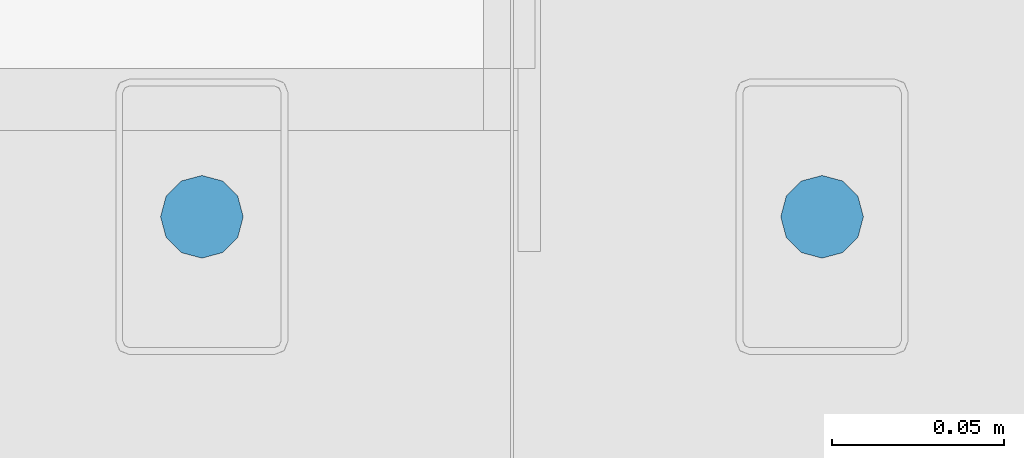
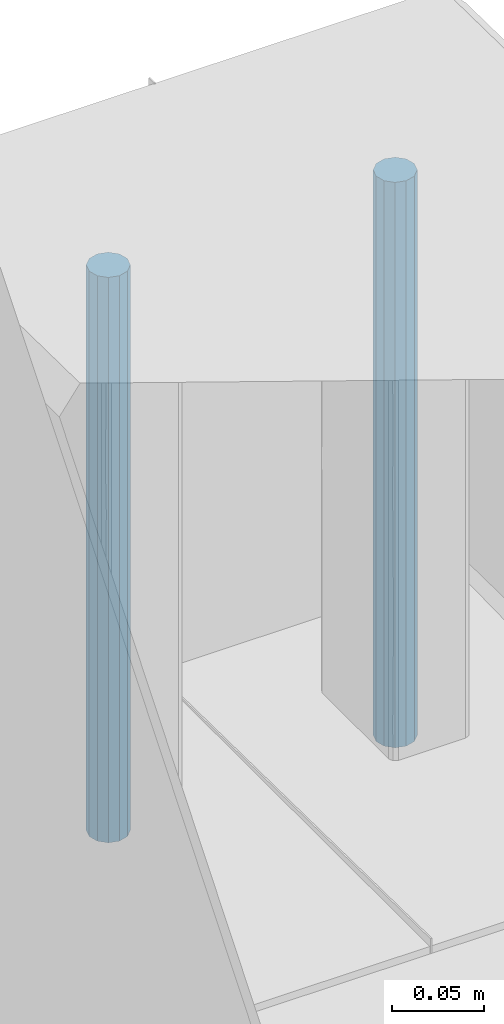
# One storey, part 138 of 186: 2 beams.
"""IFC4X3_ADD2 building model written with IfcOpenShell, lengths in millimetres."""

import ifcopenshell
import ifcopenshell.guid

model = None  # the IFC model being written
_history = None  # IfcOwnerHistory: only IFC2X3 demands one
_inside = {}  # id of a spatial element -> (the spatial element, [elements in it])
_under = {}  # id of a project, library or spatial element -> (it, [spatial elements below it])
_declared = {}  # id of a project -> (the project, [libraries it declares])
_typed = {}  # id of a type object -> (the type object, [elements of that type])
_made_of = {}  # id of a material, layer set ... -> (it, [elements and type objects made of it])


def new_model(schema):
    """Start an empty IFC model of exactly this schema.

    Asked for "IFC4X3", IfcOpenShell would pick the latest addendum, in which some entities
    have other attributes; the version numbers below select the first issue.
    IFC2X3 requires an IfcOwnerHistory on every rooted entity: one is made here for all.
    """
    global model, _history
    if schema == "IFC4X3":
        model = ifcopenshell.file(schema_version=(4, 3, 0, 0))
    else:
        model = ifcopenshell.file(schema=schema)
    _inside.clear()
    _under.clear()
    _declared.clear()
    _typed.clear()
    _made_of.clear()
    _history = None
    if model.schema == "IFC2X3":
        org = make("IfcOrganization", Name="unknown")
        user = make(
            "IfcPersonAndOrganization",
            ThePerson=make("IfcPerson", FamilyName="unknown"),
            TheOrganization=org,
        )
        app = make(
            "IfcApplication",
            ApplicationDeveloper=org,
            Version="unknown",
            ApplicationFullName="unknown",
            ApplicationIdentifier="unknown",
        )
        _history = make(
            "IfcOwnerHistory",
            OwningUser=user,
            OwningApplication=app,
            ChangeAction="ADDED",
            CreationDate=0,
        )
    return model


def make(cls, **values):
    """One entity of the class cls with the attributes given. An attribute that is None is left unset."""
    return model.create_entity(
        cls, **{name: value for name, value in values.items() if value is not None}
    )


def rooted(cls, **values):
    """An entity with a GlobalId (a new one), such as an element, a storey or a relation."""
    return make(cls, GlobalId=ifcopenshell.guid.new(), OwnerHistory=_history, **values)


def si_unit(unit_type, name, prefix=None):
    """IfcSIUnit, for example si_unit("LENGTHUNIT", "METRE", prefix="MILLI")."""
    return make("IfcSIUnit", UnitType=unit_type, Prefix=prefix, Name=name)


def assignment(units):
    """IfcUnitAssignment: the units of a project."""
    return None if units is None else make("IfcUnitAssignment", Units=units)


def point(xyz):
    """IfcCartesianPoint."""
    return None if xyz is None else make("IfcCartesianPoint", Coordinates=xyz)


def direction(xyz):
    """IfcDirection."""
    return None if xyz is None else make("IfcDirection", DirectionRatios=xyz)


def frame(location, z_axis=None, x_axis=None):
    """IfcAxis2Placement3D, a coordinate frame: its origin and axes. An axis left out is left unset."""
    return make(
        "IfcAxis2Placement3D",
        Location=point(location),
        Axis=direction(z_axis),
        RefDirection=direction(x_axis),
    )


def origin_with_axes():
    """The frame at (0, 0, 0) with the z axis (0, 0, 1) and the x axis (1, 0, 0) written out."""
    return frame((0.0, 0.0, 0.0), z_axis=(0.0, 0.0, 1.0), x_axis=(1.0, 0.0, 0.0))


def place(relative_to, where):
    """IfcLocalPlacement: puts the frame where relative to a parent placement (None: the world)."""
    return make(
        "IfcLocalPlacement", PlacementRelTo=relative_to, RelativePlacement=where
    )


def context(
    kind, dimensions, precision=None, world=None, true_north=None, identifier=None
):
    """IfcGeometricRepresentationContext, for example the 3D "Model" context."""
    return make(
        "IfcGeometricRepresentationContext",
        ContextIdentifier=identifier,
        ContextType=kind,
        CoordinateSpaceDimension=dimensions,
        Precision=precision,
        WorldCoordinateSystem=world,
        TrueNorth=true_north,
    )


def subcontext(parent, identifier, kind, view, scale=None):
    """IfcGeometricRepresentationSubContext, for example "Body" below "Model"."""
    return make(
        "IfcGeometricRepresentationSubContext",
        ContextIdentifier=identifier,
        ContextType=kind,
        ParentContext=parent,
        TargetScale=scale,
        TargetView=view,
    )


def project(units=None, contexts=None):
    """IfcProject with its units and contexts."""
    return rooted(
        "IfcProject",
        Name="project",
        RepresentationContexts=contexts,
        UnitsInContext=assignment(units),
    )


def spatial(cls, under=None, at=None, **own):
    """A site, building, storey or space (cls), placed at a placement, below another one or the project."""
    s = rooted(cls, ObjectPlacement=at, **own)
    if under is not None:
        _under.setdefault(under.id(), (under, []))[1].append(s)
    return s


def point_list(points):
    """IfcCartesianPointList2D or 3D."""
    cls = (
        "IfcCartesianPointList2D" if len(points[0]) == 2 else "IfcCartesianPointList3D"
    )
    return make(cls, CoordList=points)


def polygons(points, faces, closed=None, point_numbers=None):
    """IfcPolygonalFaceSet: a face is its outer loop, then its inner loops; points numbered from 1."""
    made = []
    for loops in faces:
        if len(loops) == 1:
            made.append(make("IfcIndexedPolygonalFace", CoordIndex=loops[0]))
        else:
            made.append(
                make(
                    "IfcIndexedPolygonalFaceWithVoids",
                    CoordIndex=loops[0],
                    InnerCoordIndices=loops[1:],
                )
            )
    return make(
        "IfcPolygonalFaceSet",
        Coordinates=point_list(points),
        Closed=closed,
        Faces=made,
        PnIndex=point_numbers,
    )


def shape(context_of_items, identifier, shape_type, items):
    """IfcShapeRepresentation: the items that make up one representation, for example the "Body"."""
    return make(
        "IfcShapeRepresentation",
        ContextOfItems=context_of_items,
        RepresentationIdentifier=identifier,
        RepresentationType=shape_type,
        Items=items,
    )


def made_of(thing, what):
    """Note that an element or type object is made of a material, layer set ...; save() writes the relation."""
    if what is not None:
        _made_of.setdefault(what.id(), (what, []))[1].append(thing)
    return thing


def element(
    cls,
    number,
    at=None,
    inside=None,
    cuts=None,
    type_object=None,
    material=None,
    context=None,
    identifier="Body",
    shape_type=None,
    held_by="IfcProductDefinitionShape",
    body=None,
    shapes=None,
    **own,
):
    """One element of the class cls, such as IfcWall. Its Tag is "e" and its number.

    at: its placement. inside: the storey or other place that contains it. cuts: it is an
    opening in that element (IfcRelVoidsElement). A single representation is given by context,
    identifier, shape_type and body (its items); several are given by shapes. held_by: the class
    of the entity that holds the representations. save() writes the other relations.
    """
    e = rooted(cls, Tag="e%d" % number, ObjectPlacement=at, **own)
    if body is not None:
        shapes = [shape(context, identifier, shape_type, body)]
    if shapes is not None:
        e.Representation = make(held_by, Representations=shapes)
    if inside is not None:
        _inside.setdefault(inside.id(), (inside, []))[1].append(e)
    if cuts is not None:
        rooted(
            "IfcRelVoidsElement", RelatingBuildingElement=cuts, RelatedOpeningElement=e
        )
    if type_object is not None:
        _typed.setdefault(type_object.id(), (type_object, []))[1].append(e)
    return made_of(e, material)


def aggregate(whole, parts):
    """IfcRelAggregates: a whole, such as a stair, and the parts it consists of."""
    return rooted("IfcRelAggregates", RelatingObject=whole, RelatedObjects=parts)


def save(model, path):
    """Write the relations noted so far, then the file.

    IfcRelAggregates (storeys below a building ...), IfcRelContainedInSpatialStructure (elements
    in a storey), IfcRelDefinesByType, IfcRelAssociatesMaterial and IfcRelDeclares: one each for
    every whole, place, type object, material and project.
    """
    for whole, parts in _under.values():
        aggregate(whole, parts)
    for where, things in _inside.values():
        rooted(
            "IfcRelContainedInSpatialStructure",
            RelatedElements=things,
            RelatingStructure=where,
        )
    for kind, things in _typed.values():
        rooted("IfcRelDefinesByType", RelatedObjects=things, RelatingType=kind)
    for what, things in _made_of.values():
        rooted("IfcRelAssociatesMaterial", RelatedObjects=things, RelatingMaterial=what)
    for by, libraries in _declared.values():
        rooted("IfcRelDeclares", RelatingContext=by, RelatedDefinitions=libraries)
    model.write(path)


model = new_model("IFC4X3_ADD2")

# Units and contexts
model_context = context("Model", 3, precision=1e-05, world=origin_with_axes(), true_north=direction((0.0, 1.0)))
body_context = subcontext(model_context, "Body", "Model", "MODEL_VIEW")
ifc_project = project(units=[si_unit("LENGTHUNIT", "METRE", prefix="MILLI"), si_unit("AREAUNIT", "SQUARE_METRE"), si_unit("VOLUMEUNIT", "CUBIC_METRE"), si_unit("PLANEANGLEUNIT", "RADIAN"), si_unit("TIMEUNIT", "SECOND"), si_unit("MASSUNIT", "GRAM")], contexts=[model_context])

# Site, building, storey
site_placement = place(None, origin_with_axes())
site = spatial("IfcSite", under=ifc_project, at=site_placement, Name="Site", CompositionType="ELEMENT")
building_placement = place(site_placement, origin_with_axes())
building = spatial("IfcBuilding", under=site, at=building_placement, Name="IFC Building Story")
storey_placement = place(building_placement, frame((0.0, 0.0, 4370.0), z_axis=(0.0, 0.0, 1.0), x_axis=(1.0, 0.0, 0.0)))
storey = spatial("IfcBuildingStorey", under=building, at=storey_placement, Name="ETAGE 10 (1)", Elevation=4370.0)

# Beams
beam_1_placement = place(storey_placement, frame((0.0, 0.0, -4370.0), z_axis=(0.0, 0.0, 1.0), x_axis=(1.0, 0.0, 0.0)))
element("IfcBeam", 1, at=beam_1_placement, inside=storey, Name="SD11", ObjectType="D24", context=body_context, shape_type="Tessellation", body=[
    polygons([(33479.1882547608, -125.0000362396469, 7494.903), (33479.1882547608, -125.0000362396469, 7119.902999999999), (33480.79594991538, -131.0000362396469, 7119.902999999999), (33480.79594991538, -131.0000362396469, 7494.903), (33485.1882547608, -135.3923410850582, 7119.902999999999), (33485.1882547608, -135.392341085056, 7494.903), (33491.1882547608, -137.000036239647, 7119.902999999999), (33491.1882547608, -137.000036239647, 7494.903), (33497.1882547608, -135.3923410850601, 7119.902999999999), (33497.1882547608, -135.3923410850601, 7494.903), (33501.58055960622, -131.0000362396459, 7119.902999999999), (33501.58055960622, -131.0000362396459, 7494.903), (33503.1882547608, -125.0000362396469, 7119.902999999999), (33503.1882547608, -125.0000362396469, 7494.903), (33501.58055960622, -119.0000362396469, 7119.902999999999), (33501.58055960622, -119.0000362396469, 7494.903), (33497.1882547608, -114.6077313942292, 7119.902999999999), (33497.1882547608, -114.6077313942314, 7494.903), (33491.1882547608, -113.0000362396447, 7119.902999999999), (33491.1882547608, -113.0000362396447, 7494.903), (33485.1882547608, -114.6077313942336, 7119.902999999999), (33485.1882547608, -114.6077313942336, 7494.903), (33480.79594991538, -119.0000362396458, 7119.902999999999), (33480.79594991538, -119.0000362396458, 7494.903)], [[[1, 2, 3, 4]], [[4, 3, 5, 6]], [[6, 5, 7, 8]], [[8, 7, 9, 10]], [[10, 9, 11, 12]], [[12, 11, 13, 14]], [[14, 13, 15, 16]], [[16, 15, 17, 18]], [[18, 17, 19, 20]], [[20, 19, 21, 22]], [[22, 21, 23, 24]], [[24, 23, 2, 1]], [[4, 6, 8]], [[4, 8, 10]], [[4, 10, 12]], [[4, 12, 14]], [[4, 14, 16]], [[4, 16, 18]], [[4, 18, 20]], [[4, 20, 22]], [[4, 22, 24]], [[4, 24, 1]], [[2, 23, 21]], [[2, 21, 19]], [[2, 19, 17]], [[2, 17, 15]], [[2, 15, 13]], [[2, 13, 11]], [[2, 11, 9]], [[2, 9, 7]], [[2, 7, 5]], [[2, 5, 3]]]),
])
beam_2_placement = place(storey_placement, frame((0.0, 0.0, -4370.0), z_axis=(0.0, 0.0, 1.0), x_axis=(1.0, 0.0, 0.0)))
element("IfcBeam", 2, at=beam_2_placement, inside=storey, Name="SD11", ObjectType="D24", context=body_context, shape_type="Tessellation", body=[
    polygons([(33299.1882547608, -125.0000362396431, 7494.903), (33299.1882547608, -125.0000362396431, 7119.902999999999), (33300.79594991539, -131.000036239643, 7119.902999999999), (33300.79594991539, -131.000036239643, 7494.903), (33305.1882547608, -135.3923410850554, 7119.902999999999), (33305.1882547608, -135.3923410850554, 7494.903), (33311.1882547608, -137.000036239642, 7119.902999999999), (33311.1882547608, -137.000036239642, 7494.903), (33317.1882547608, -135.3923410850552, 7119.902999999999), (33317.1882547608, -135.3923410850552, 7494.903), (33321.58055960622, -131.000036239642, 7119.902999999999), (33321.58055960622, -131.000036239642, 7494.903), (33323.18825476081, -125.0000362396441, 7119.902999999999), (33323.18825476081, -125.0000362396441, 7494.903), (33321.58055960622, -119.0000362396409, 7119.902999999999), (33321.58055960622, -119.0000362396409, 7494.903), (33317.1882547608, -114.6077313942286, 7119.902999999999), (33317.1882547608, -114.6077313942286, 7494.903), (33311.1882547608, -113.000036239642, 7119.902999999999), (33311.1882547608, -113.000036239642, 7494.903), (33305.1882547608, -114.6077313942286, 7119.902999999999), (33305.1882547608, -114.6077313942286, 7494.903), (33300.79594991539, -119.000036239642, 7119.902999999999), (33300.79594991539, -119.000036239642, 7494.903)], [[[1, 2, 3, 4]], [[4, 3, 5, 6]], [[6, 5, 7, 8]], [[8, 7, 9, 10]], [[10, 9, 11, 12]], [[12, 11, 13, 14]], [[14, 13, 15, 16]], [[16, 15, 17, 18]], [[18, 17, 19, 20]], [[20, 19, 21, 22]], [[22, 21, 23, 24]], [[24, 23, 2, 1]], [[4, 6, 8]], [[4, 8, 10]], [[4, 10, 12]], [[4, 12, 14]], [[4, 14, 16]], [[4, 16, 18]], [[4, 18, 20]], [[4, 20, 22]], [[4, 22, 24]], [[4, 24, 1]], [[2, 23, 21]], [[2, 21, 19]], [[2, 19, 17]], [[2, 17, 15]], [[2, 15, 13]], [[2, 13, 11]], [[2, 11, 9]], [[2, 9, 7]], [[2, 7, 5]], [[2, 5, 3]]]),
])

save(model, "model.ifc")
